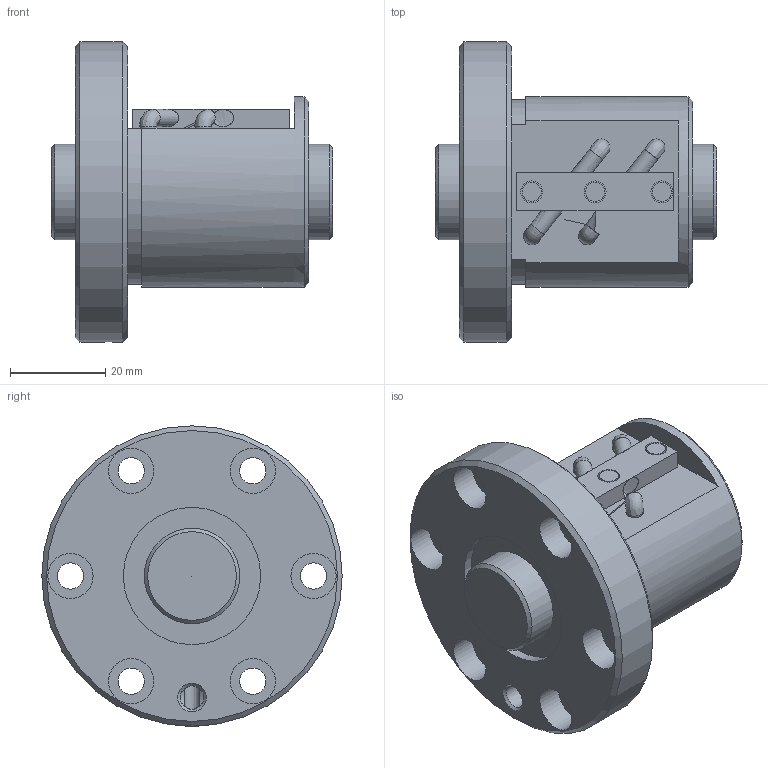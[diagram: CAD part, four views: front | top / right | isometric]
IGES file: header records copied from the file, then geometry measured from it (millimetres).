
Start section: Data from Parasolid IGES Translator 26.0.171, Copyright(c) 2006 Siemens PLM Software. All Rights Reserved.
Global section: file name: BIF2004V-5RRG0+59LC0_000.igs; native system: By Siemens PLM Incorporated; preprocessor: XPlus GENERIC/IGES 26.0.171; author: Noname; organization: Noname; date: 20240715.081645; units: millimetre
Bounding box: 59 x 63 x 63 mm (x, y, z)
Surface area: 22190.1 mm2 (no closed solid volume)
Topology: 0 solids, 0 shells, 98 faces, 438 edges, 386 vertices
Faces by surface type: revolution 57, extrusion 41
